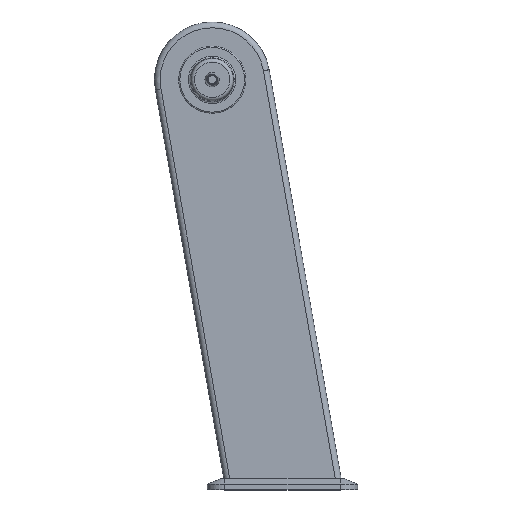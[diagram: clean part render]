
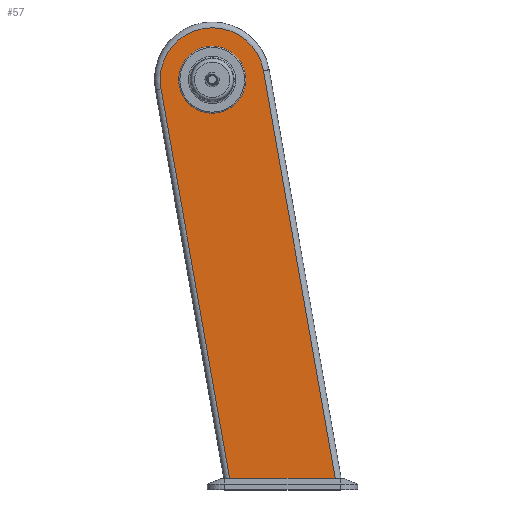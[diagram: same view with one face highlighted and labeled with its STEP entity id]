
A CAD part, top view. The second image highlights one B-rep face of the part: STEP entity #57.
In plain terms, the highlighted planar face has unit normal (0, 0, 1).
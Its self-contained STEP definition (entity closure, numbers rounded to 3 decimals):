
#32 = VERTEX_POINT ( 'NONE', #1595 ) ;
#57 = ADVANCED_FACE ( 'NONE', ( #1666, #1669 ), #1520, .T. ) ;
#84 = DIRECTION ( 'NONE',  ( 1., 0., 0. ) ) ;
#87 = AXIS2_PLACEMENT_3D ( 'NONE', #756, #751, #84 ) ;
#93 = CARTESIAN_POINT ( 'NONE',  ( 58., 0., 31.25 ) ) ;
#114 = AXIS2_PLACEMENT_3D ( 'NONE', #804, #781, #780 ) ;
#211 = ORIENTED_EDGE ( 'NONE', *, *, #1261, .T. ) ;
#221 = EDGE_LOOP ( 'NONE', ( #1034, #1742, #632, #211 ) ) ;
#273 = CARTESIAN_POINT ( 'NONE',  ( 213.054, -690., 31.25 ) ) ;
#289 = DIRECTION ( 'NONE',  ( 0.174, -0.985, 0. ) ) ;
#325 = CARTESIAN_POINT ( 'NONE',  ( 33.498, -708.264, 31.25 ) ) ;
#362 = CARTESIAN_POINT ( 'NONE',  ( 88.633, 15.628, 31.25 ) ) ;
#381 = CARTESIAN_POINT ( 'NONE',  ( 30.277, -690., 31.25 ) ) ;
#625 = AXIS2_PLACEMENT_3D ( 'NONE', #1356, #1477, #1494 ) ;
#632 = ORIENTED_EDGE ( 'NONE', *, *, #1266, .T. ) ;
#673 = VECTOR ( 'NONE', #289, 1000. ) ;
#677 = LINE ( 'NONE', #325, #673 ) ;
#739 = DIRECTION ( 'NONE',  ( -0.174, 0.985, 0. ) ) ;
#743 = CARTESIAN_POINT ( 'NONE',  ( 88.633, 15.628, 31.25 ) ) ;
#751 = DIRECTION ( 'NONE',  ( 0., 0., 1. ) ) ;
#756 = CARTESIAN_POINT ( 'NONE',  ( 0., 0., 31.25 ) ) ;
#757 = CARTESIAN_POINT ( 'NONE',  ( 0., -690., 31.25 ) ) ;
#780 = DIRECTION ( 'NONE',  ( 1., 0., 0. ) ) ;
#781 = DIRECTION ( 'NONE',  ( 0., 0., 1. ) ) ;
#804 = CARTESIAN_POINT ( 'NONE',  ( 0., 0., 31.25 ) ) ;
#829 = DIRECTION ( 'NONE',  ( 1., 0., 0. ) ) ;
#921 = EDGE_LOOP ( 'NONE', ( #1462 ) ) ;
#1034 = ORIENTED_EDGE ( 'NONE', *, *, #1495, .T. ) ;
#1237 = EDGE_CURVE ( 'NONE', #1673, #1673, #1550, .T. ) ;
#1261 = EDGE_CURVE ( 'NONE', #1466, #32, #1499, .T. ) ;
#1264 = EDGE_CURVE ( 'NONE', #1445, #1507, #1523, .T. ) ;
#1266 = EDGE_CURVE ( 'NONE', #1507, #1466, #1505, .T. ) ;
#1356 = CARTESIAN_POINT ( 'NONE',  ( 0., 0., 31.25 ) ) ;
#1445 = VERTEX_POINT ( 'NONE', #381 ) ;
#1462 = ORIENTED_EDGE ( 'NONE', *, *, #1237, .F. ) ;
#1466 = VERTEX_POINT ( 'NONE', #362 ) ;
#1476 = VECTOR ( 'NONE', #739, 1000. ) ;
#1477 = DIRECTION ( 'NONE',  ( 0., 0., 1. ) ) ;
#1494 = DIRECTION ( 'NONE',  ( 1., 0., 0. ) ) ;
#1495 = EDGE_CURVE ( 'NONE', #32, #1445, #677, .T. ) ;
#1497 = VECTOR ( 'NONE', #829, 1000. ) ;
#1499 = CIRCLE ( 'NONE', #87, 90. ) ;
#1505 = LINE ( 'NONE', #743, #1476 ) ;
#1507 = VERTEX_POINT ( 'NONE', #273 ) ;
#1520 = PLANE ( 'NONE',  #625 ) ;
#1523 = LINE ( 'NONE', #757, #1497 ) ;
#1550 = CIRCLE ( 'NONE', #114, 58. ) ;
#1595 = CARTESIAN_POINT ( 'NONE',  ( -88.633, -15.628, 31.25 ) ) ;
#1666 = FACE_OUTER_BOUND ( 'NONE', #221, .T. ) ;
#1669 = FACE_BOUND ( 'NONE', #921, .T. ) ;
#1673 = VERTEX_POINT ( 'NONE', #93 ) ;
#1742 = ORIENTED_EDGE ( 'NONE', *, *, #1264, .T. ) ;
